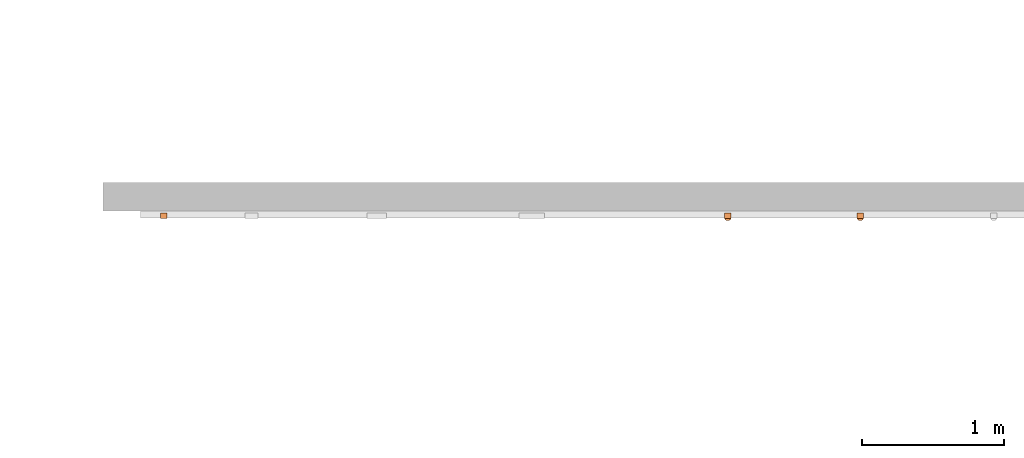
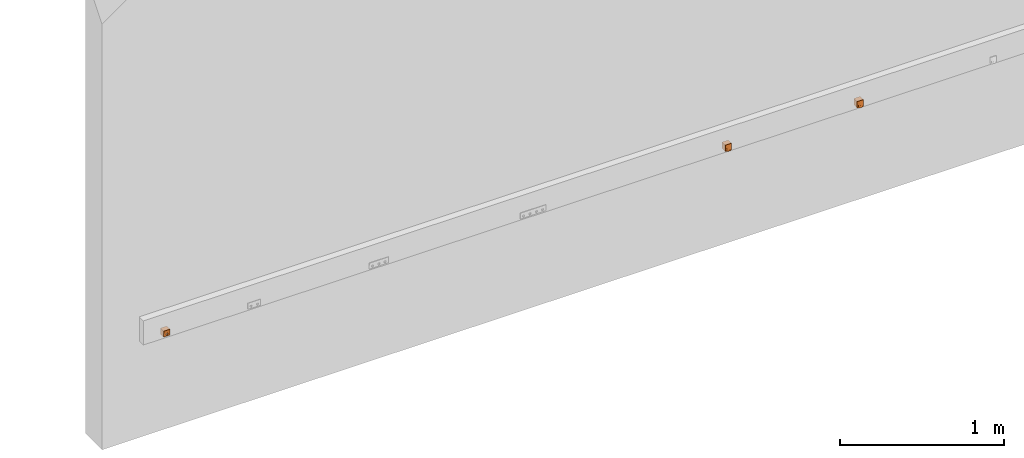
# One storey, part 190 of 197: 3 proxies.
"""IFC2X3 building model written with IfcOpenShell, lengths in metres."""

from ifc_helpers import new_model, entity, si_unit, converted_unit, direction, frame, origin, place, context, subcontext, project, spatial, faceted_brep, source, transform, mapped, material, material_list, type_object, type_shapes, element, save


model = new_model("IFC2X3")

# Units and contexts
model_context = context("Model", 3, precision=1e-05, world=origin(), true_north=direction((6.123031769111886e-17, 1.0)))
body_context = subcontext(model_context, "Body", "Model", "MODEL_VIEW")
ifc_project = project(units=[si_unit("LENGTHUNIT", "METRE"), converted_unit("PLANEANGLEUNIT", "DEGREE", entity("IfcPlaneAngleMeasure", 0.017453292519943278), si_unit("PLANEANGLEUNIT", "RADIAN"), dimensions=[0, 0, 0, 0, 0, 0, 0]), si_unit("AREAUNIT", "SQUARE_METRE")], contexts=[model_context])

# Site, building, storey
site_placement = place(None, origin())
site = spatial("IfcSite", under=ifc_project, at=site_placement, Name="Default", CompositionType="ELEMENT")
building_placement = place(site_placement, origin())
building = spatial("IfcBuilding", under=site, at=building_placement, CompositionType="ELEMENT")
storey_placement = place(building_placement, origin())
storey = spatial("IfcBuildingStorey", under=building, at=storey_placement, Name="Niveau 0", CompositionType="ELEMENT", Elevation=0.0)

# Proxies
ifc_material_1 = material(Name="BETCE-ENJOLIVEUR PC-BLANC")
ifc_material_2 = material(Name="BETCE-ETIQUETTE RJ-BLEU")
ifc_material_list_1 = material_list([ifc_material_1, ifc_material_2])
building_element_proxy_type_1 = type_object("IfcBuildingElementProxyType", Name="Prise simple RJ45 goulotte:1RJ45", PredefinedType="NOTDEFINED", material=ifc_material_list_1)
shared_shape_1 = source(origin(), body_context, "Body", "Brep", [
    faceted_brep([(0.022455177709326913, -0.00899309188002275, 0.044997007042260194), (-0.022544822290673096, -0.0089930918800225, 0.044997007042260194), (-0.0225448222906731, -0.0089930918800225, -2.992957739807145e-06), (0.022455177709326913, -0.00899309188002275, -2.992957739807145e-06), (-0.007044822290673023, -0.008993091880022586, 0.02213142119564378), (-0.00019015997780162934, -0.008993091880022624, 0.02213142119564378), (0.006955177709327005, -0.008993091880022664, 0.02213142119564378), (0.006955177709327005, -0.008993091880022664, 0.010131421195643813), (0.0019551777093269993, -0.008993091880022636, 0.010131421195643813), (0.0019551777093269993, -0.008993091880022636, 0.006131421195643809), (-0.0020448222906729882, -0.008993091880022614, 0.006131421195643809), (-0.0020448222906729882, -0.008993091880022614, 0.01013142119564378), (-0.007044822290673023, -0.008993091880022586, 0.01013142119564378), (0.022455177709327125, 0.02900690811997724, 0.044997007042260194), (0.022455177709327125, 0.02900690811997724, -2.992957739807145e-06), (-0.022544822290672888, 0.02900690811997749, -2.992957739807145e-06), (-0.022544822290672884, 0.02900690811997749, 0.044997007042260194), (-0.007044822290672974, 0.0, 0.02213142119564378), (-0.007044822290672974, 0.0, 0.01013142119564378), (-0.002044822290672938, 0.0, 0.01013142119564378), (-0.002044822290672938, 0.0, 0.006131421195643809), (0.001955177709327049, 0.0, 0.006131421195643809), (0.001955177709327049, 0.0, 0.010131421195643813), (0.0069551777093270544, 0.0, 0.010131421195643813), (0.0069551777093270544, 0.0, 0.02213142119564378), (-0.0001901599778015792, 0.0, 0.02213142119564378)], [[[0, 1, 2, 3], [4, 5, 6, 7, 8, 9, 10, 11, 12]], [[13, 14, 15, 16]], [[1, 0, 13, 16]], [[2, 1, 16, 15]], [[3, 2, 15, 14]], [[0, 3, 14, 13]], [[17, 18, 19, 20, 21, 22, 23, 24, 25]], [[17, 25, 5, 4]], [[25, 24, 6, 5]], [[24, 23, 7, 6]], [[23, 22, 8, 7]], [[22, 21, 9, 8]], [[21, 20, 10, 9]], [[20, 19, 11, 10]], [[19, 18, 12, 11]], [[18, 17, 4, 12]]]),
    faceted_brep([(0.022455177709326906, -0.009993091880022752, 0.044997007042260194), (-0.0225448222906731, -0.0099930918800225, 0.044997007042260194), (-0.022544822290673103, -0.0099930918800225, 0.029131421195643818), (0.022455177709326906, -0.009993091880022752, 0.029131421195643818), (0.022455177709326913, -0.00899309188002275, 0.044997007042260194), (0.022455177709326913, -0.00899309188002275, 0.029131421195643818), (-0.0225448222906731, -0.0089930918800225, 0.029131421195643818), (-0.022544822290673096, -0.0089930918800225, 0.044997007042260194)], [[[0, 1, 2, 3]], [[4, 5, 6, 7]], [[1, 0, 4, 7]], [[2, 1, 7, 6]], [[3, 2, 6, 5]], [[0, 3, 5, 4]]]),
])
type_shapes(building_element_proxy_type_1, [shared_shape_1])
proxy_1_placement = place(storey_placement, frame((-418.66644850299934, 76.46896719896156, 0.73)))
element("IfcBuildingElementProxy", 1, at=proxy_1_placement, inside=storey, type_object=building_element_proxy_type_1, material=ifc_material_list_1, Name="Prise simple RJ45 goulotte:1RJ45", ObjectType="Prise simple RJ45 goulotte:1RJ45", context=body_context, shape_type="MappedRepresentation", body=[
    mapped(shared_shape_1, transform((0.0, 0.0, 0.0), scale=1.0)),
])
ifc_material_3 = material(Name="<Unnamed>")
ifc_material_4 = material(Name="BETCE-ENVELOPPE SORTIE CABLE-BLANC")
ifc_material_list_2 = material_list([ifc_material_3, ifc_material_4])
building_element_proxy_type_2 = type_object("IfcBuildingElementProxyType", Name="Prise HDMI+USB goulotte sur sortie de câble:1HDMI+1USB", PredefinedType="NOTDEFINED", material=ifc_material_list_2)
shared_shape_2 = source(origin(), body_context, "Body", "Brep", [
    faceted_brep([(0.022541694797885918, -0.004999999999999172, 0.022499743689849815), (-0.02254169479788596, -0.004999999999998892, 0.022499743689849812), (-0.02254169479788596, -0.004999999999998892, -0.022493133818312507), (0.022541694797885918, -0.004999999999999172, -0.022493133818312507), (0.022541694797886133, 0.030000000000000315, 0.022499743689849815), (0.022541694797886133, 0.030000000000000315, -0.022493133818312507), (-0.022541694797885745, 0.030000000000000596, -0.022493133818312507), (-0.022541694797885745, 0.030000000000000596, 0.022499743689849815)], [[[0, 1, 2, 3]], [[4, 5, 6, 7]], [[3, 5, 4, 0]], [[2, 6, 5, 3]], [[1, 7, 6, 2]], [[0, 4, 7, 1]]]),
    faceted_brep([(0.003958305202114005, -0.009999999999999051, -0.02250025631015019), (0.003958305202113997, -0.004999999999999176, -0.02250025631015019), (0.022458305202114, -0.004999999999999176, -0.02250025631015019), (0.022458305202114, -0.009999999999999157, -0.02250025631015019), (-0.004041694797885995, -0.009999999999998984, -0.02250025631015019), (-0.02254169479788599, -0.009999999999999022, -0.02250025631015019), (-0.02254169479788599, -0.004999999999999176, -0.02250025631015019), (-0.004041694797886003, -0.004999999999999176, -0.02250025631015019), (0.022458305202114, -0.009999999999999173, 0.02249974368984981), (0.022458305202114, -0.004999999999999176, 0.02249974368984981), (-0.02254169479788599, -0.0049999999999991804, 0.02249974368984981), (-0.02254169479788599, -0.009999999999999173, 0.02249974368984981), (-0.010873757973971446, -0.009999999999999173, 0.02249974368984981), (0.0007941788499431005, -0.009999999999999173, 0.02249974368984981), (0.01162624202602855, -0.009999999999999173, 0.02249974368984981), (0.02245830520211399, -0.009999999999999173, 0.015338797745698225), (0.02245830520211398, -0.009999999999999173, 0.008177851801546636), (0.022458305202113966, -0.009999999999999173, 0.0010169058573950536), (0.022458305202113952, -0.009999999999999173, -0.00614403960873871), (0.022458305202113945, -0.009999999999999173, -0.014322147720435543), (0.0030030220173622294, -0.0221448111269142, -0.014443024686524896), (0.009367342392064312, -0.019458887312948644, -0.01051610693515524), (0.0015145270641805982, -0.020564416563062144, -0.009313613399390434), (-0.005665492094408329, -0.023519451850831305, -0.0199653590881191), (-0.009264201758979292, -0.020068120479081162, -0.012321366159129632), (-0.011018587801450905, -0.021734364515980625, -0.020300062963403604), (0.013707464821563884, -0.013105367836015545, 0.007924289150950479), (0.002646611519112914, -0.01270448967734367, 0.014266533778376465), (0.004177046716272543, -0.01532420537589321, 0.005987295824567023), (-0.01975012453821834, -0.014822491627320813, -0.021596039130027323), (-0.015814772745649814, -0.01880146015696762, -0.020849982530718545), (-0.01664266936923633, -0.016769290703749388, -0.015016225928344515), (0.013145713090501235, -0.011571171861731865, 0.015236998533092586), (0.011201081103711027, -0.015533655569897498, 0.0010643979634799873), (0.004577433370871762, -0.018037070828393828, -0.0025082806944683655), (0.012444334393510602, -0.016711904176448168, -0.004940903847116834), (-0.02254169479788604, -0.009999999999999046, -0.014322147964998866), (0.014333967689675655, -0.018396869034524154, -0.015177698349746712), (0.017452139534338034, -0.014987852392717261, -0.009726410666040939), (0.010932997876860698, -0.02173538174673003, -0.02029987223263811), (0.0055804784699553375, -0.023519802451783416, -0.019965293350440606), (-0.014316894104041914, -0.015208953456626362, -0.001982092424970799), (-0.003418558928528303, -0.019056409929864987, -0.0051842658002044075), (-0.0034939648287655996, -0.01685011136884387, 0.0015118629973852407), (-4.243154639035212e-05, -0.024117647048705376, -0.019853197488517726), (0.01966548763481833, -0.01482411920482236, -0.021595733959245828), (0.015729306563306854, -0.018803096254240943, -0.020849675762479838), (-0.016281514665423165, -0.015643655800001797, -0.008621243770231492), (0.017376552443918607, -0.013536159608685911, -0.0014496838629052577), (-0.02254169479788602, -0.009999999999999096, 0.0010169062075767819), (-0.022541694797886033, -0.009999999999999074, -0.006144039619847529), (-0.013373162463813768, -0.011168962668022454, 0.016990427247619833), (-0.0064424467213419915, -0.012424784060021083, 0.014570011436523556), (-0.005276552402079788, -0.014560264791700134, 0.008075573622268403), (0.017488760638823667, -0.01263310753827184, 0.0036503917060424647), (-0.014251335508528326, -0.012267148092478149, 0.011249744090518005), (-0.022541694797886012, -0.009999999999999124, 0.008177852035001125), (-0.015880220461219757, -0.01315216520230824, 0.004597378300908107), (-0.022541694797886, -0.009999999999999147, 0.014321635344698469), (0.003958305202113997, -0.004999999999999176, -0.015000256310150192), (-0.004041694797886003, -0.004999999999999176, -0.015000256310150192), (-0.0010769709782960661, -0.017863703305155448, -0.015000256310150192), (-0.0020416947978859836, -0.017464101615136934, -0.015000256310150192), (-0.0028701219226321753, -0.016828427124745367, -0.015000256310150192), (-0.003505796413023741, -0.015999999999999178, -0.015000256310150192), (-0.00390539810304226, -0.015035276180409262, -0.015000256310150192), (-0.004041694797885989, -0.01399999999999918, -0.015000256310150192), (0.003958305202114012, -0.013999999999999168, -0.015000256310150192), (0.0038220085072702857, -0.01503527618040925, -0.015000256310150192), (0.0034224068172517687, -0.015999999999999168, -0.015000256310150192), (0.0027867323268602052, -0.01682842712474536, -0.015000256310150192), (0.0019583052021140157, -0.017464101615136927, -0.015000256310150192), (0.0009935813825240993, -0.017863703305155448, -0.015000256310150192), (-4.169479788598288e-05, -0.017999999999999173, -0.015000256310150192), (-0.004041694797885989, -0.013999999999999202, -0.01914530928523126), (-0.004041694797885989, -0.013999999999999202, -0.020447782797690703), (-0.004041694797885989, -0.01399999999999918, -0.021750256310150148), (0.003958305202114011, -0.01399999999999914, -0.02175025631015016), (0.003958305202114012, -0.01399999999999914, -0.020447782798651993), (0.003958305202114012, -0.01399999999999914, -0.019145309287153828), (0.0029523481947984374, -0.01665249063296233, -0.021252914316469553), (0.003842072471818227, -0.014957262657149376, -0.02157076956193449), (0.0035001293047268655, -0.01585889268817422, -0.021401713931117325), (0.001376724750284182, -0.01774006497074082, -0.021048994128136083), (0.002230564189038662, -0.01729193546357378, -0.021133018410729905), (0.00044045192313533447, -0.017970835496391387, -0.0210057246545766), (-0.0030357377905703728, -0.01665249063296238, -0.021252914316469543), (-0.00392546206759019, -0.014957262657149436, -0.021570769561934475), (-0.0023139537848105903, -0.017291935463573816, -0.021133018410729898), (-0.001460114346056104, -0.01774006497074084, -0.02104899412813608), (-0.0005238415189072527, -0.017970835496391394, -0.0210057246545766), (-0.0035835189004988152, -0.015858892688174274, -0.021401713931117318)], [[[0, 1, 2, 3]], [[4, 5, 6, 7]], [[8, 9, 10, 11, 12, 13, 14]], [[9, 8, 15, 16, 17, 18, 19, 3, 2]], [[20, 21, 22]], [[23, 24, 25]], [[26, 27, 28]], [[29, 30, 31]], [[14, 27, 32]], [[33, 34, 35]], [[36, 29, 31]], [[30, 25, 31]], [[36, 5, 29]], [[21, 37, 38]], [[24, 23, 20]], [[39, 20, 40]], [[20, 37, 21]], [[39, 37, 20]], [[41, 42, 43]], [[40, 20, 44]], [[37, 19, 38]], [[19, 45, 3]], [[39, 46, 37]], [[46, 45, 37]], [[44, 20, 23]], [[31, 24, 47]], [[42, 24, 22]], [[31, 47, 36]], [[19, 37, 45]], [[34, 33, 28]], [[33, 35, 48]], [[49, 50, 41]], [[48, 35, 38]], [[51, 52, 12]], [[28, 43, 34]], [[28, 27, 53]], [[21, 38, 35]], [[18, 38, 19]], [[34, 22, 21]], [[54, 48, 17]], [[35, 34, 21]], [[38, 18, 48]], [[42, 34, 43]], [[42, 47, 24]], [[28, 53, 43]], [[55, 56, 57]], [[56, 49, 57]], [[12, 11, 51]], [[26, 28, 33]], [[16, 15, 8, 32]], [[54, 17, 16]], [[41, 43, 57]], [[13, 52, 27]], [[26, 16, 32]], [[14, 13, 27]], [[55, 53, 52]], [[56, 55, 58]], [[27, 52, 53]], [[57, 43, 53]], [[55, 57, 53]], [[57, 49, 41]], [[20, 22, 24]], [[42, 22, 34]], [[55, 52, 51]], [[12, 52, 13]], [[26, 33, 54]], [[17, 48, 18]], [[48, 54, 33]], [[26, 54, 16]], [[51, 58, 55]], [[58, 51, 11]], [[50, 36, 47]], [[24, 31, 25]], [[47, 41, 50]], [[41, 47, 42]], [[26, 32, 27]], [[14, 32, 8]], [[5, 36, 50, 49, 56, 58, 11, 10, 6]], [[2, 1, 59, 60, 7, 6, 10, 9]], [[61, 62, 63, 64, 65, 66, 60, 59, 67, 68, 69, 70, 71, 72, 73]], [[60, 66, 74, 75, 76, 4, 7]], [[67, 59, 1, 0, 77, 78, 79]], [[78, 80, 79]], [[77, 81, 78]], [[78, 82, 80]], [[82, 78, 81]], [[79, 83, 72]], [[79, 84, 83]], [[79, 80, 84]], [[69, 68, 79]], [[67, 79, 68]], [[72, 85, 73]], [[71, 79, 72]], [[79, 71, 70]], [[69, 79, 70]], [[85, 72, 83]], [[74, 86, 75]], [[87, 76, 75]], [[88, 74, 89]], [[90, 89, 61]], [[66, 65, 74]], [[75, 86, 91]], [[91, 87, 75]], [[86, 74, 88]], [[74, 61, 89]], [[61, 73, 90]], [[74, 64, 63]], [[63, 62, 74]], [[61, 74, 62]], [[74, 65, 64]], [[90, 73, 85]], [[5, 4, 76, 87, 91, 86, 88, 89, 90, 85, 83, 84, 80, 82, 81, 77, 0, 3, 45, 46, 39, 40, 44, 23, 25, 30, 29]]]),
])
type_shapes(building_element_proxy_type_2, [shared_shape_2])
proxy_2_placement = place(storey_placement, frame((-414.70244850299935, 76.46896719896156, 0.7524972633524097)))
element("IfcBuildingElementProxy", 2, at=proxy_2_placement, inside=storey, type_object=building_element_proxy_type_2, material=ifc_material_list_2, Name="Prise HDMI+USB goulotte sur sortie de câble:1HDMI+1USB", ObjectType="Prise HDMI+USB goulotte sur sortie de câble:1HDMI+1USB", context=body_context, shape_type="MappedRepresentation", body=[
    mapped(shared_shape_2, transform((0.0, 0.0, 0.0), scale=1.0)),
])
building_element_proxy_type_3 = type_object("IfcBuildingElementProxyType", Name="Prise HDMI+USB goulotte sur sortie de câble:2HDMI", PredefinedType="NOTDEFINED", material=ifc_material_list_2)
shared_shape_3 = source(origin(), body_context, "Body", "Brep", [
    faceted_brep([(0.022541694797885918, -0.004999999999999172, 0.022499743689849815), (-0.02254169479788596, -0.004999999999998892, 0.022499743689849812), (-0.02254169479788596, -0.004999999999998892, -0.022493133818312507), (0.022541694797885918, -0.004999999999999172, -0.022493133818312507), (0.022541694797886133, 0.030000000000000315, 0.022499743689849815), (0.022541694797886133, 0.030000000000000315, -0.022493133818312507), (-0.022541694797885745, 0.030000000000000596, -0.022493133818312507), (-0.022541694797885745, 0.030000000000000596, 0.022499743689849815)], [[[0, 1, 2, 3]], [[4, 5, 6, 7]], [[3, 5, 4, 0]], [[2, 6, 5, 3]], [[1, 7, 6, 2]], [[0, 4, 7, 1]]]),
    faceted_brep([(0.003958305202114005, -0.009999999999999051, -0.02250025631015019), (0.003958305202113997, -0.004999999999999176, -0.02250025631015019), (0.022458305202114, -0.004999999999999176, -0.02250025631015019), (0.022458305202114, -0.009999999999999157, -0.02250025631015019), (-0.004041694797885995, -0.009999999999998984, -0.02250025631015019), (-0.02254169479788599, -0.009999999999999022, -0.02250025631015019), (-0.02254169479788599, -0.004999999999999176, -0.02250025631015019), (-0.004041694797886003, -0.004999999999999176, -0.02250025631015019), (0.022458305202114, -0.009999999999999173, 0.02249974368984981), (0.022458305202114, -0.004999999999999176, 0.02249974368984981), (-0.02254169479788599, -0.0049999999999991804, 0.02249974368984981), (-0.02254169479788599, -0.009999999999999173, 0.02249974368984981), (-0.010873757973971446, -0.009999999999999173, 0.02249974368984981), (0.0007941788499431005, -0.009999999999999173, 0.02249974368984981), (0.01162624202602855, -0.009999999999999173, 0.02249974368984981), (0.02245830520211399, -0.009999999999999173, 0.015338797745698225), (0.02245830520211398, -0.009999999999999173, 0.008177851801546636), (0.022458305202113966, -0.009999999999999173, 0.0010169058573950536), (0.022458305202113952, -0.009999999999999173, -0.00614403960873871), (0.022458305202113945, -0.009999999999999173, -0.014322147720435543), (0.0030030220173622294, -0.0221448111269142, -0.014443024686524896), (0.009367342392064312, -0.019458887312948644, -0.01051610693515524), (0.0015145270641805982, -0.020564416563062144, -0.009313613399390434), (-0.005665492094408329, -0.023519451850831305, -0.0199653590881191), (-0.009264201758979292, -0.020068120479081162, -0.012321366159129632), (-0.011018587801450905, -0.021734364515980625, -0.020300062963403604), (0.013707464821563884, -0.013105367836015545, 0.007924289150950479), (0.002646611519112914, -0.01270448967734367, 0.014266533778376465), (0.004177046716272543, -0.01532420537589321, 0.005987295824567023), (-0.01975012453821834, -0.014822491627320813, -0.021596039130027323), (-0.015814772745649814, -0.01880146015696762, -0.020849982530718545), (-0.01664266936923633, -0.016769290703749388, -0.015016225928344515), (0.013145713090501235, -0.011571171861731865, 0.015236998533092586), (0.011201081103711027, -0.015533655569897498, 0.0010643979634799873), (0.004577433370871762, -0.018037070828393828, -0.0025082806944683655), (0.012444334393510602, -0.016711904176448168, -0.004940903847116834), (-0.02254169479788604, -0.009999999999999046, -0.014322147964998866), (0.014333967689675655, -0.018396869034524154, -0.015177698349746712), (0.017452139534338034, -0.014987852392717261, -0.009726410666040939), (0.010932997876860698, -0.02173538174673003, -0.02029987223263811), (0.0055804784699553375, -0.023519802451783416, -0.019965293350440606), (-0.014316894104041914, -0.015208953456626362, -0.001982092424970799), (-0.003418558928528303, -0.019056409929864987, -0.0051842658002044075), (-0.0034939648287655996, -0.01685011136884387, 0.0015118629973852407), (-4.243154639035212e-05, -0.024117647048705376, -0.019853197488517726), (0.01966548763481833, -0.01482411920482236, -0.021595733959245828), (0.015729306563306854, -0.018803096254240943, -0.020849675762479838), (-0.016281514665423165, -0.015643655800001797, -0.008621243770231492), (0.017376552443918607, -0.013536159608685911, -0.0014496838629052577), (-0.02254169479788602, -0.009999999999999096, 0.0010169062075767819), (-0.022541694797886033, -0.009999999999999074, -0.006144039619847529), (-0.013373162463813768, -0.011168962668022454, 0.016990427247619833), (-0.0064424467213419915, -0.012424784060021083, 0.014570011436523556), (-0.005276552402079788, -0.014560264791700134, 0.008075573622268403), (0.017488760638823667, -0.01263310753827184, 0.0036503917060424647), (-0.014251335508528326, -0.012267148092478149, 0.011249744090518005), (-0.022541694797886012, -0.009999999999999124, 0.008177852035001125), (-0.015880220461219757, -0.01315216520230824, 0.004597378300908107), (-0.022541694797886, -0.009999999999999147, 0.014321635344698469), (0.003958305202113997, -0.004999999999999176, -0.015000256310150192), (-0.004041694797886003, -0.004999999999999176, -0.015000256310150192), (-0.0010769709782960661, -0.017863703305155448, -0.015000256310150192), (-0.0020416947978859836, -0.017464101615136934, -0.015000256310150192), (-0.0028701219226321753, -0.016828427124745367, -0.015000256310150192), (-0.003505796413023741, -0.015999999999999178, -0.015000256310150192), (-0.00390539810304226, -0.015035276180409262, -0.015000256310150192), (-0.004041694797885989, -0.01399999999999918, -0.015000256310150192), (0.003958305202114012, -0.013999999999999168, -0.015000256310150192), (0.0038220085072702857, -0.01503527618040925, -0.015000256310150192), (0.0034224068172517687, -0.015999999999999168, -0.015000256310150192), (0.0027867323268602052, -0.01682842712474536, -0.015000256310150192), (0.0019583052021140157, -0.017464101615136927, -0.015000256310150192), (0.0009935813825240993, -0.017863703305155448, -0.015000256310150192), (-4.169479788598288e-05, -0.017999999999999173, -0.015000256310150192), (-0.004041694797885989, -0.013999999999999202, -0.01914530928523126), (-0.004041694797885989, -0.013999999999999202, -0.020447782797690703), (-0.004041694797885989, -0.01399999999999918, -0.021750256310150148), (0.003958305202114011, -0.01399999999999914, -0.02175025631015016), (0.003958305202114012, -0.01399999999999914, -0.020447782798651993), (0.003958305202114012, -0.01399999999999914, -0.019145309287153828), (0.0029523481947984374, -0.01665249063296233, -0.021252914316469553), (0.003842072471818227, -0.014957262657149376, -0.02157076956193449), (0.0035001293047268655, -0.01585889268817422, -0.021401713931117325), (0.001376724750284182, -0.01774006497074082, -0.021048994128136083), (0.002230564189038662, -0.01729193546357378, -0.021133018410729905), (0.00044045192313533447, -0.017970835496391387, -0.0210057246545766), (-0.0030357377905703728, -0.01665249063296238, -0.021252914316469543), (-0.00392546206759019, -0.014957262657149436, -0.021570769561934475), (-0.0023139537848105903, -0.017291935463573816, -0.021133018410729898), (-0.001460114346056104, -0.01774006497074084, -0.02104899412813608), (-0.0005238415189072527, -0.017970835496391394, -0.0210057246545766), (-0.0035835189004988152, -0.015858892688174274, -0.021401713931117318)], [[[0, 1, 2, 3]], [[4, 5, 6, 7]], [[8, 9, 10, 11, 12, 13, 14]], [[9, 8, 15, 16, 17, 18, 19, 3, 2]], [[20, 21, 22]], [[23, 24, 25]], [[26, 27, 28]], [[29, 30, 31]], [[14, 27, 32]], [[33, 34, 35]], [[36, 29, 31]], [[30, 25, 31]], [[36, 5, 29]], [[21, 37, 38]], [[24, 23, 20]], [[39, 20, 40]], [[20, 37, 21]], [[39, 37, 20]], [[41, 42, 43]], [[40, 20, 44]], [[37, 19, 38]], [[19, 45, 3]], [[39, 46, 37]], [[46, 45, 37]], [[44, 20, 23]], [[31, 24, 47]], [[42, 24, 22]], [[31, 47, 36]], [[19, 37, 45]], [[34, 33, 28]], [[33, 35, 48]], [[49, 50, 41]], [[48, 35, 38]], [[51, 52, 12]], [[28, 43, 34]], [[28, 27, 53]], [[21, 38, 35]], [[18, 38, 19]], [[34, 22, 21]], [[54, 48, 17]], [[35, 34, 21]], [[38, 18, 48]], [[42, 34, 43]], [[42, 47, 24]], [[28, 53, 43]], [[55, 56, 57]], [[56, 49, 57]], [[12, 11, 51]], [[26, 28, 33]], [[16, 15, 8, 32]], [[54, 17, 16]], [[41, 43, 57]], [[13, 52, 27]], [[26, 16, 32]], [[14, 13, 27]], [[55, 53, 52]], [[56, 55, 58]], [[27, 52, 53]], [[57, 43, 53]], [[55, 57, 53]], [[57, 49, 41]], [[20, 22, 24]], [[42, 22, 34]], [[55, 52, 51]], [[12, 52, 13]], [[26, 33, 54]], [[17, 48, 18]], [[48, 54, 33]], [[26, 54, 16]], [[51, 58, 55]], [[58, 51, 11]], [[50, 36, 47]], [[24, 31, 25]], [[47, 41, 50]], [[41, 47, 42]], [[26, 32, 27]], [[14, 32, 8]], [[5, 36, 50, 49, 56, 58, 11, 10, 6]], [[2, 1, 59, 60, 7, 6, 10, 9]], [[61, 62, 63, 64, 65, 66, 60, 59, 67, 68, 69, 70, 71, 72, 73]], [[60, 66, 74, 75, 76, 4, 7]], [[67, 59, 1, 0, 77, 78, 79]], [[78, 80, 79]], [[77, 81, 78]], [[78, 82, 80]], [[82, 78, 81]], [[79, 83, 72]], [[79, 84, 83]], [[79, 80, 84]], [[69, 68, 79]], [[67, 79, 68]], [[72, 85, 73]], [[71, 79, 72]], [[79, 71, 70]], [[69, 79, 70]], [[85, 72, 83]], [[74, 86, 75]], [[87, 76, 75]], [[88, 74, 89]], [[90, 89, 61]], [[66, 65, 74]], [[75, 86, 91]], [[91, 87, 75]], [[86, 74, 88]], [[74, 61, 89]], [[61, 73, 90]], [[74, 64, 63]], [[63, 62, 74]], [[61, 74, 62]], [[74, 65, 64]], [[90, 73, 85]], [[5, 4, 76, 87, 91, 86, 88, 89, 90, 85, 83, 84, 80, 82, 81, 77, 0, 3, 45, 46, 39, 40, 44, 23, 25, 30, 29]]]),
])
type_shapes(building_element_proxy_type_3, [shared_shape_3])
proxy_3_placement = place(storey_placement, frame((-413.77244850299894, 76.46896719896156, 0.7524972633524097)))
element("IfcBuildingElementProxy", 3, at=proxy_3_placement, inside=storey, type_object=building_element_proxy_type_3, material=ifc_material_list_2, Name="Prise HDMI+USB goulotte sur sortie de câble:2HDMI", ObjectType="Prise HDMI+USB goulotte sur sortie de câble:2HDMI", context=body_context, shape_type="MappedRepresentation", body=[
    mapped(shared_shape_3, transform((0.0, 0.0, 0.0), scale=1.0)),
])

save(model, "model.ifc")
